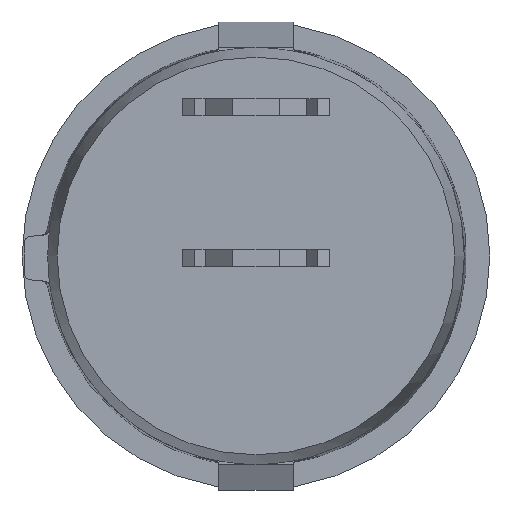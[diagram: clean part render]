
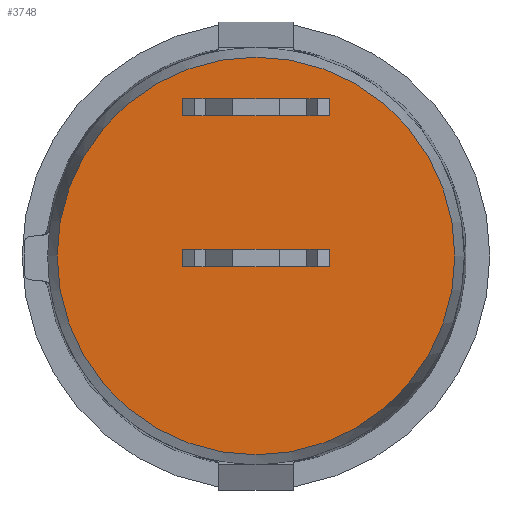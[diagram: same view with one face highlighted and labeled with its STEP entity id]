
A CAD part, front view. The second image highlights one B-rep face of the part: STEP entity #3748.
In plain terms, the highlighted planar face has unit normal (0, -1, 0).
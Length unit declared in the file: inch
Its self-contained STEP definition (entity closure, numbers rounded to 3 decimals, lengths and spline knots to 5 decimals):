
#285=FACE_OUTER_BOUND('',#487,.T.);
#487=EDGE_LOOP('',(#2934));
#1433=CIRCLE('',#4049,9.35418);
#1663=VERTEX_POINT('',#5607);
#2117=EDGE_CURVE('',#1663,#1663,#1433,.T.);
#2934=ORIENTED_EDGE('',*,*,#2117,.F.);
#3598=PLANE('',#4055);
#3748=ADVANCED_FACE('',(#285),#3598,.F.);
#4049=AXIS2_PLACEMENT_3D('',#5608,#4648,#4649);
#4055=AXIS2_PLACEMENT_3D('',#5618,#4661,#4662);
#4648=DIRECTION('center_axis',(0.,1.,0.));
#4649=DIRECTION('ref_axis',(-1.,0.,0.));
#4661=DIRECTION('center_axis',(0.,1.,0.));
#4662=DIRECTION('ref_axis',(0.,0.,1.));
#5607=CARTESIAN_POINT('',(9.35418,-14.5,0.));
#5608=CARTESIAN_POINT('Origin',(0.,-14.5,0.));
#5618=CARTESIAN_POINT('Origin',(0.,-14.5,0.));
